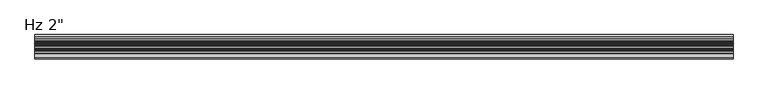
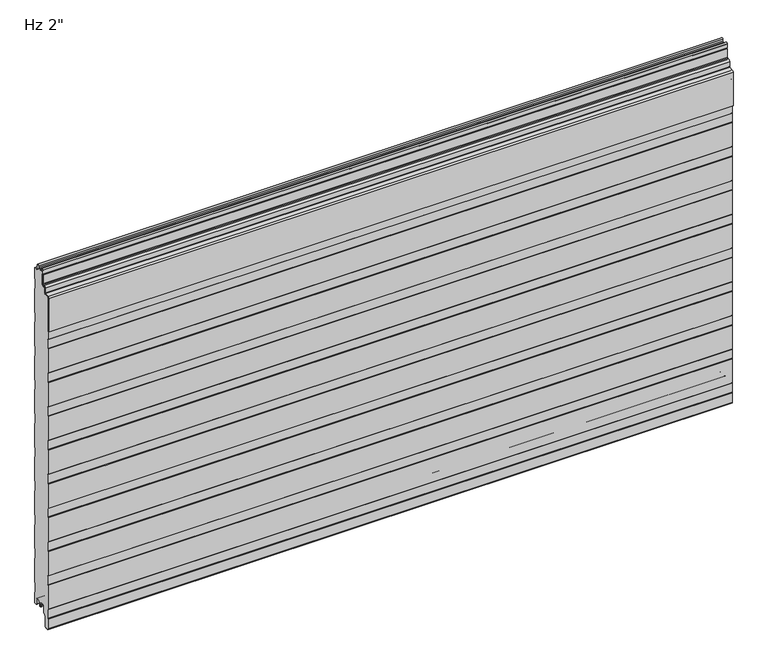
"""IFC4 building model written with IfcOpenShell, lengths in millimetres: plate geometry."""

from ifc_helpers import new_model, si_unit, point, frame, frame_2d, origin, place, context, project, spatial, polyline, circle_curve, trimmed, segment, composite_curve, outline, extrude, source, transform, mapped, element, save
from ifc_brep_helpers import plane_surface, cylinder_surface, revolved_surface, advanced_brep


def plate_c709af47(model_context):
    return source(origin(), model_context, "Body", "SolidModel", [
        advanced_brep(
        [(730.0, -29.7008679, 735.9534183), (730.0, -29.7008679, 754.6986183), (730.0, -31.2248679, 754.6986183), (730.0, -31.2248679, 735.9534183), (730.0, -32.7488679, 734.4294183), (730.0, -35.8476679, 734.4294183), (730.0, -39.3020679, 730.9750183), (730.0, -39.3020679, 719.762461), (730.0, -39.9976552, 719.0033606), (730.0, -49.5416507, 717.808533), (730.0, -52.324, 714.7721316), (730.0, -52.3360323, 639.2048183), (730.0, -50.8, 639.2048183), (730.0, -50.8, 714.7721316), (730.0, -49.4088254, 716.2903323), (730.0, -39.8648299, 717.4851599), (730.0, -37.7780679, 719.762461), (730.0, -37.7780679, 730.9750183), (730.0, -35.8476679, 732.9054183), (730.0, -32.7488679, 732.9054183), (-730.0, -29.7008679, 735.9534183), (-730.0, -32.7488679, 732.9054183), (-730.0, -35.8476679, 732.9054183), (-730.0, -37.7780679, 730.9750183), (-730.0, -37.7780679, 719.762461), (-730.0, -39.8648299, 717.4851599), (-730.0, -49.4088254, 716.2903323), (-730.0, -50.8, 714.7721316), (-730.0, -50.8, 639.2048183), (-730.0, -52.3360323, 639.2048183), (-730.0, -52.3360323, 714.7721316), (-730.0, -49.5416507, 717.808533), (-730.0, -39.9976552, 719.0033606), (-730.0, -39.3020679, 719.762461), (-730.0, -39.3020679, 730.9750183), (-730.0, -35.8476679, 734.4294183), (-730.0, -32.7488679, 734.4294183), (-730.0, -31.2248679, 735.9534183), (-730.0, -31.2248679, 754.6986183), (-730.0, -29.7008679, 754.6986183)],
        [
            (0, 1),
            (1, 2),
            (2, 3),
            (3, 4, circle_curve(frame((730.0, -32.7488679, 735.9534183), z_axis=(-1.0, 0.0, 0.0), x_axis=(0.0, 1.0, 0.0)), 1.524)),
            (4, 5),
            (5, 6, circle_curve(frame((730.0, -35.8476679, 730.9750183), z_axis=(1.0, 0.0, 0.0), x_axis=(0.0, 1.0, 0.0)), 3.4544)),
            (6, 7),
            (7, 8, circle_curve(frame((730.0, -40.0640679, 719.762461), z_axis=(-1.0, 0.0, 0.0), x_axis=(0.0, 1.0, 0.0)), 0.762)),
            (8, 9),
            (9, 10, circle_curve(frame((730.0, -49.276, 714.7721316), z_axis=(1.0, 0.0, 0.0), x_axis=(0.0, 1.0, 0.0)), 3.048)),
            (10, 11),
            (11, 12),
            (12, 13),
            (13, 14, circle_curve(frame((730.0, -49.276, 714.7721316), z_axis=(-1.0, 0.0, 0.0), x_axis=(0.0, 1.0, 0.0)), 1.524)),
            (14, 15),
            (15, 16, circle_curve(frame((730.0, -40.0640679, 719.762461), z_axis=(1.0, 0.0, 0.0), x_axis=(0.0, 1.0, 0.0)), 2.286)),
            (16, 17),
            (17, 18, circle_curve(frame((730.0, -35.8476679, 730.9750183), z_axis=(-1.0, 0.0, 0.0), x_axis=(0.0, 1.0, 0.0)), 1.9304)),
            (18, 19),
            (19, 0, circle_curve(frame((730.0, -32.7488679, 735.9534183), z_axis=(1.0, 0.0, 0.0), x_axis=(0.0, 1.0, 0.0)), 3.048)),
            (20, 21, circle_curve(frame((-730.0, -32.7488679, 735.9534183), z_axis=(-1.0, 0.0, 0.0), x_axis=(0.0, 1.0, 0.0)), 3.048)),
            (21, 22),
            (22, 23, circle_curve(frame((-730.0, -35.8476679, 730.9750183), z_axis=(1.0, 0.0, 0.0), x_axis=(0.0, 1.0, 0.0)), 1.9304)),
            (23, 24),
            (24, 25, circle_curve(frame((-730.0, -40.0640679, 719.762461), z_axis=(-1.0, 0.0, 0.0), x_axis=(0.0, 1.0, 0.0)), 2.286)),
            (25, 26),
            (26, 27, circle_curve(frame((-730.0, -49.276, 714.7721316), z_axis=(1.0, 0.0, 0.0), x_axis=(0.0, 1.0, 0.0)), 1.524)),
            (27, 28),
            (28, 29),
            (29, 30),
            (30, 31, circle_curve(frame((-730.0, -49.276, 714.7721316), z_axis=(-1.0, 0.0, 0.0), x_axis=(0.0, 1.0, 0.0)), 3.048)),
            (31, 32),
            (32, 33, circle_curve(frame((-730.0, -40.0640679, 719.762461), z_axis=(1.0, 0.0, 0.0), x_axis=(0.0, 1.0, 0.0)), 0.762)),
            (33, 34),
            (34, 35, circle_curve(frame((-730.0, -35.8476679, 730.9750183), z_axis=(-1.0, 0.0, 0.0), x_axis=(0.0, 1.0, 0.0)), 3.4544)),
            (35, 36),
            (36, 37, circle_curve(frame((-730.0, -32.7488679, 735.9534183), z_axis=(1.0, 0.0, 0.0), x_axis=(0.0, 1.0, 0.0)), 1.524)),
            (37, 38),
            (38, 39),
            (39, 20),
            (2, 38),
            (37, 3),
            (15, 25),
            (24, 16),
            (7, 33),
            (32, 8),
            (5, 35),
            (34, 6),
            (1, 39),
            (36, 4),
            (9, 31),
            (30, 10),
            (13, 27),
            (26, 14),
            (0, 20),
            (12, 28),
            (29, 11),
            (23, 17),
            (18, 22),
            (21, 19),
        ],
        [
            plane_surface(frame((730.0, -50.8, 754.6986183), z_axis=(1.0, 0.0, 0.0), x_axis=(0.0, 0.0, -1.0))),
            plane_surface(frame((-730.0, -50.8, 754.6986183), z_axis=(-1.0, 0.0, 0.0), x_axis=(0.0, 0.0, -1.0))),
            plane_surface(frame((730.0, -31.2248679, 735.9534183), z_axis=(0.0, -1.0, 0.0), x_axis=(-1.0, 0.0, 0.0))),
            cylinder_surface(frame((730.0, -40.0640679, 719.762461), z_axis=(1.0, 0.0, 0.0), x_axis=(0.0, 1.0, 0.0)), 2.286),
            revolved_surface(polyline([(-730.0, -39.3020679, 719.762461), (730.0, -39.3020679, 719.762461)]), (730.0, -40.0640679, 719.762461), (-1.0, 0.0, 0.0)),
            cylinder_surface(frame((730.0, -35.8476679, 730.9750183), z_axis=(1.0, 0.0, 0.0), x_axis=(0.0, 1.0, 0.0)), 3.4544),
            plane_surface(frame((730.0, -31.2248679, 754.6986183), z_axis=(0.0, 0.0, 1.0), x_axis=(-1.0, 0.0, 0.0))),
            revolved_surface(polyline([(-730.0, -31.2248679, 735.9534183), (730.0, -31.2248679, 735.9534183)]), (730.0, -32.7488679, 735.9534183), (-1.0, 0.0, 0.0)),
            cylinder_surface(frame((730.0, -49.276, 714.7721316), z_axis=(1.0, 0.0, 0.0), x_axis=(0.0, 1.0, 0.0)), 3.048),
            revolved_surface(polyline([(-730.0, -47.752, 714.7721316), (730.0, -47.752, 714.7721316)]), (730.0, -49.276, 714.7721316), (-1.0, 0.0, 0.0)),
            plane_surface(frame((730.0, -29.7008679, 754.6986183), z_axis=(0.0, 1.0, 0.0), x_axis=(-1.0, 0.0, 0.0))),
            plane_surface(frame((730.0, -39.8648299, 717.4851599), z_axis=(0.0, 0.12422187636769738, -0.9922544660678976), x_axis=(-1.0, 0.0, 0.0))),
            plane_surface(frame((730.0, -50.8, 714.7721316), z_axis=(0.0, 1.0, 0.0), x_axis=(-1.0, 0.0, 0.0))),
            plane_surface(frame((730.0, -49.5416507, 717.808533), z_axis=(0.0, -0.12422187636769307, 0.9922544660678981), x_axis=(-1.0, 0.0, 0.0))),
            plane_surface(frame((730.0, -35.8476679, 734.4294183), z_axis=(0.0, 0.0, 1.0), x_axis=(-1.0, 0.0, 0.0))),
            plane_surface(frame((730.0, -52.3360323, 639.2048183), z_axis=(0.0, -1.0, 0.0), x_axis=(-1.0, 0.0, 0.0))),
            plane_surface(frame((730.0, -50.8, 639.2048183), z_axis=(0.0, 0.0, -1.0), x_axis=(-1.0, 0.0, 0.0))),
            plane_surface(frame((730.0, -37.7780679, 730.9750183), z_axis=(0.0, 1.0, 0.0), x_axis=(-1.0, 0.0, 0.0))),
            plane_surface(frame((730.0, -32.7488679, 732.9054183), z_axis=(0.0, 0.0, -1.0), x_axis=(-1.0, 0.0, 0.0))),
            plane_surface(frame((730.0, -39.3020679, 719.762461), z_axis=(0.0, -1.0, 0.0), x_axis=(-1.0, 0.0, 0.0))),
            revolved_surface(polyline([(-730.0, -33.9172679, 730.9750183), (730.0, -33.9172679, 730.9750183)]), (730.0, -35.8476679, 730.9750183), (-1.0, 0.0, 0.0)),
            cylinder_surface(frame((730.0, -32.7488679, 735.9534183), z_axis=(1.0, 0.0, 0.0), x_axis=(0.0, 1.0, 0.0)), 3.048),
        ],
        [
            (0, [[1, 2, 3, 4, 5, 6, 7, 8, 9, 10, 11, 12, 13, 14, 15, 16, 17, 18, 19, 20]]),
            (1, [[21, 22, 23, 24, 25, 26, 27, 28, 29, 30, 31, 32, 33, 34, 35, 36, 37, 38, 39, 40]]),
            (2, [[41, -38, 42, -3]]),
            (3, [[43, -25, 44, -16]]),
            (4, [[45, -33, 46, -8]]),
            (5, [[47, -35, 48, -6]]),
            (6, [[49, -39, -41, -2]]),
            (7, [[-42, -37, 50, -4]]),
            (8, [[51, -31, 52, -10]]),
            (9, [[53, -27, 54, -14]]),
            (10, [[55, -40, -49, -1]]),
            (11, [[-54, -26, -43, -15]]),
            (12, [[56, -28, -53, -13]]),
            (13, [[-46, -32, -51, -9]]),
            (14, [[-50, -36, -47, -5]]),
            (15, [[-52, -30, 57, -11]]),
            (16, [[-57, -29, -56, -12]]),
            (17, [[-44, -24, 58, -17]]),
            (18, [[59, -22, 60, -19]]),
            (19, [[-48, -34, -45, -7]]),
            (20, [[-58, -23, -59, -18]]),
            (21, [[-60, -21, -55, -20]]),
        ],
    ),
        extrude(outline(composite_curve([segment(trimmed(circle_curve(frame_2d((-22.506538, 2.2313092)), 1.1999976), [point((-22.4760161, 1.0316999))], [point((-21.3065413, 2.2328239))], True, "CARTESIAN"), True, "CONTINUOUS"), segment(polyline([(-21.3065413, 2.2328239), (-21.3065413, 5.9912173), (-22.7050202, 5.9912173), (-22.7050202, 8.6903283)]), True, "CONTINUOUS"), segment(trimmed(circle_curve(frame_2d((-26.0550155, 8.6903283)), 3.3499953), [point((-22.7050202, 8.6903283))], [point((-26.0550155, 12.0403236))], True, "CARTESIAN"), True, "CONTINUOUS"), segment(polyline([(-26.0550155, 12.0403236), (-30.4550067, 12.0403236)]), True, "CONTINUOUS"), segment(trimmed(circle_curve(frame_2d((-30.4550067, 8.6903283)), 3.3499953), [point((-30.4550067, 12.0403236))], [point((-33.805002, 8.6903283))], True, "CARTESIAN"), True, "CONTINUOUS"), segment(polyline([(-33.805002, 8.6903283), (-33.805002, -3.1205608)]), True, "CONTINUOUS"), segment(trimmed(circle_curve(frame_2d((-35.5049966, -3.1205608)), 1.6999946), [point((-33.805002, -3.1205608))], [point((-34.3029189, -4.3226385))], False, "CARTESIAN"), True, "CONTINUOUS"), segment(polyline([(-34.3029189, -4.3226385), (-39.80499, -9.8247096), (-39.80499, -31.9198392)]), True, "CONTINUOUS"), segment(trimmed(circle_curve(frame_2d((-42.5049826, -31.9198392)), 2.6999926), [point((-39.80499, -31.9198392))], [point((-42.023592, -34.5765709))], False, "CARTESIAN"), True, "CONTINUOUS"), segment(polyline([(-42.023592, -34.5765709), (-47.0054129, -35.0125699)]), True, "CONTINUOUS"), segment(trimmed(circle_curve(frame_2d((-47.2294985, -32.4521176)), 2.5702393), [point((-47.0054129, -35.0125699))], [point((-49.7997378, -32.4521176))], False, "CARTESIAN"), True, "CONTINUOUS"), segment(polyline([(-49.7997378, -32.4521176), (-49.7997378, -10.4790962), (-48.5997693, -9.2791277), (-48.5997693, 10.4402849), (-49.8, 11.6405156), (-49.8, 65.7206473), (-48.5997693, 66.920878), (-48.5997693, 86.6402905), (-49.8, 87.8405213), (-49.8, 141.920653), (-48.5997693, 143.1208837), (-48.5997693, 162.8402962), (-49.8, 164.0405269), (-49.8, 218.1206587), (-48.5997693, 219.3208894), (-48.5997693, 239.0403019), (-49.8, 240.2405326), (-49.8, 294.3206644), (-48.5997693, 295.5208951), (-48.5997693, 315.2403076), (-49.8, 316.4405383), (-49.8, 370.5206701), (-48.5997693, 371.7209008), (-48.5997693, 391.4403133), (-49.8, 392.640544), (-49.8, 446.7206758), (-48.5997693, 447.9209065), (-48.5997693, 467.640319), (-49.8, 468.8405497), (-49.8, 522.9206815), (-48.5997693, 524.1209122), (-48.5997693, 543.8403247), (-49.8, 545.0405554), (-49.8, 599.1206872), (-48.5997693, 600.3209179), (-48.5997693, 620.0403304), (-49.8, 621.2405611), (-49.8, 675.3206929), (-48.5997693, 676.5209236), (-48.5997693, 696.2403361), (-49.8051411, 697.4457079), (-49.8051411, 713.5156233)]), True, "CONTINUOUS"), segment(trimmed(circle_curve(frame_2d((-47.8461194, 713.5156233)), 1.9590216), [point((-49.8051411, 713.5156233))], [point((-48.0178029, 715.4671075))], False, "CARTESIAN"), True, "CONTINUOUS"), segment(polyline([(-48.0178029, 715.4671075), (-39.5590902, 716.221161)]), True, "CONTINUOUS"), segment(trimmed(circle_curve(frame_2d((-39.8231732, 719.2396267)), 3.0299959), [point((-39.5590902, 716.221161))], [point((-36.7957873, 719.3653654))], True, "CARTESIAN"), True, "CONTINUOUS"), segment(polyline([(-36.7957873, 719.3653654), (-36.7957873, 729.4583308)]), True, "CONTINUOUS"), segment(trimmed(circle_curve(frame_2d((-35.8443786, 729.4583308)), 0.9514087), [point((-36.7957873, 729.4583308))], [point((-35.8443786, 730.4097394))], False, "CARTESIAN"), True, "CONTINUOUS"), segment(polyline([(-35.8443786, 730.4097394), (-32.7007233, 730.4097394)]), True, "CONTINUOUS"), segment(trimmed(circle_curve(frame_2d((-32.7007233, 734.4091924)), 3.9994529), [point((-32.7007233, 730.4097394))], [point((-28.7012703, 734.4091924))], True, "CARTESIAN"), True, "CONTINUOUS"), segment(polyline([(-28.7012703, 734.4091924), (-28.7012703, 755.5895515), (-30.6821181, 756.7334028), (-30.3268578, 765.706811)]), True, "CONTINUOUS"), segment(trimmed(circle_curve(frame_2d((-28.2266291, 765.6236622)), 2.1018739), [point((-30.3268578, 765.706811))], [point((-26.1262802, 765.7037148))], False, "CARTESIAN"), True, "CONTINUOUS"), segment(polyline([(-26.1262802, 765.7037148), (-25.8818653, 761.6977997)]), True, "CONTINUOUS"), segment(trimmed(circle_curve(frame_2d((-24.0434917, 761.8099653)), 1.8417922), [point((-25.8818653, 761.6977997))], [point((-24.0870527, 759.9686884))], True, "CARTESIAN"), True, "CONTINUOUS"), segment(polyline([(-24.0870527, 759.9686884), (-21.3025061, 759.9686884), (-21.3025061, 760.9686884), (-22.8900061, 760.9686884), (-21.8586945, 762.0), (-18.6247968, 762.0), (-17.5934852, 760.9686884), (-19.0078731, 760.9686884), (-19.0078731, 759.9686884), (-16.6806905, 759.9686884)]), True, "CONTINUOUS"), segment(trimmed(circle_curve(frame_2d((-16.6806905, 761.7186869)), 1.7499985), [point((-16.6806905, 759.9686884))], [point((-14.9319872, 761.6513685))], True, "CARTESIAN"), True, "CONTINUOUS"), segment(polyline([(-14.9319872, 761.6513685), (-14.7123265, 765.7921924)]), True, "CONTINUOUS"), segment(trimmed(circle_curve(frame_2d((-12.5616314, 765.6781032)), 2.153719), [point((-14.7123265, 765.7921924))], [point((-10.4109885, 765.7931719))], False, "CARTESIAN"), True, "CONTINUOUS"), segment(polyline([(-10.4109885, 765.7931719), (-10.0037808, 757.3016499)]), True, "CONTINUOUS"), segment(trimmed(circle_curve(frame_2d((-5.9930781, 757.4939817)), 4.0153117), [point((-10.0037808, 757.3016499))], [point((-6.008945, 753.4787013))], True, "CARTESIAN"), True, "CONTINUOUS"), segment(polyline([(-6.008945, 753.4787013), (-1.0063443, 753.4787013), (-1.0063443, 728.9790963), (-2.206575, 727.5934634), (-2.206575, 708.2182971), (-1.0063443, 706.8326641), (-1.0063443, 652.7792487), (-2.206575, 651.3936158), (-2.206575, 632.0184495), (-1.0063443, 630.6328165), (-1.0063443, 576.5794011), (-2.206575, 575.1937682), (-2.206575, 555.8186019), (-1.0063443, 554.4329689), (-1.0063443, 500.3795535), (-2.206575, 498.9939206), (-2.206575, 479.6187543), (-1.0063443, 478.2331213), (-1.0063443, 424.1797059), (-2.206575, 422.794073), (-2.206575, 403.4189067), (-1.0063443, 402.0332737), (-1.0063443, 347.9798583), (-2.206575, 346.5942254), (-2.206575, 327.2190591), (-1.0063443, 325.8334261), (-1.0063443, 271.7800107), (-2.206575, 270.3943778), (-2.206575, 251.0192115), (-1.0063443, 249.6335785), (-1.0063443, 195.5801631), (-2.206575, 194.1945302), (-2.206575, 174.8193639), (-1.0063443, 173.4337309), (-1.0063443, 119.3803155), (-2.206575, 117.9946826), (-2.206575, 98.6195163), (-1.0063443, 97.2338833), (-1.0063443, 43.1804679), (-2.206575, 41.794835), (-2.206575, 22.4196687), (-1.0063359, 21.034026), (-1.0063359, -3.4662506), (-5.2378832, -3.4662506)]), True, "CONTINUOUS"), segment(trimmed(circle_curve(frame_2d((-5.2378832, -1.6962564)), 1.7699942), [point((-5.2378832, -3.4662506))], [point((-7.0078774, -1.6962564))], False, "CARTESIAN"), True, "CONTINUOUS"), segment(polyline([(-7.0078774, -1.6962564), (-7.0078774, 8.7237222)]), True, "CONTINUOUS"), segment(trimmed(circle_curve(frame_2d((-10.3078733, 8.7237222)), 3.2999959), [point((-7.0078774, 8.7237222))], [point((-10.3078733, 12.023718))], True, "CARTESIAN"), True, "CONTINUOUS"), segment(polyline([(-10.3078733, 12.023718), (-14.7078645, 12.023718)]), True, "CONTINUOUS"), segment(trimmed(circle_curve(frame_2d((-14.7078645, 8.7237223)), 3.2999957), [point((-14.7078645, 12.023718))], [point((-18.0078602, 8.7237223))], True, "CARTESIAN"), True, "CONTINUOUS"), segment(polyline([(-18.0078602, 8.7237223), (-18.0078602, 6.0315125), (-19.0078547, 6.0315125), (-19.0078547, 2.0313089)]), True, "CONTINUOUS"), segment(trimmed(circle_curve(frame_2d((-18.0078576, 2.0313089)), 0.9999972), [point((-19.0078547, 2.0313089))], [point((-18.0078635, 1.0313117))], True, "CARTESIAN"), True, "CONTINUOUS"), segment(polyline([(-18.0078635, 1.0313117), (-19.0391752, 0.0), (-21.4443162, 0.0), (-22.4760161, 1.0316999)]), True, "CONTINUOUS")], self_intersect=False)), frame((-730.0, 0.0, 0.0), z_axis=(1.0, 0.0, 0.0), x_axis=(0.0, 1.0, 0.0)), (0.0, 0.0, 1.0), 1460.0),
    ])


if __name__ == "__main__":
    model = new_model("IFC4")
    model_context = context("Model", 3, world=origin())
    ifc_project = project(units=[si_unit("LENGTHUNIT", "METRE", prefix="MILLI")], contexts=[model_context])
    site = spatial("IfcSite", under=ifc_project)
    building = spatial("IfcBuilding", under=site)
    placement = place(None, origin())
    plate_shape = plate_c709af47(model_context)
    element("IfcPlate", 1, ObjectType="KIP-30-Karrier-KP-R19-CP-Hz-SL_SL : Hz 2\"", at=placement, inside=building, context=model_context, shape_type="MappedRepresentation", body=[
        mapped(plate_shape, transform((0.0, 0.0, 0.0), x_axis=(1.0, 0.0, 0.0), y_axis=(0.0, 1.0, 0.0), z_axis=(0.0, 0.0, 1.0))),
    ])
    save(model, "model.ifc")
